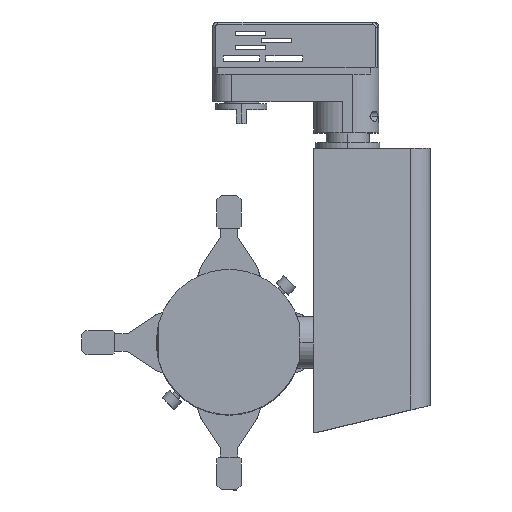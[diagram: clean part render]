
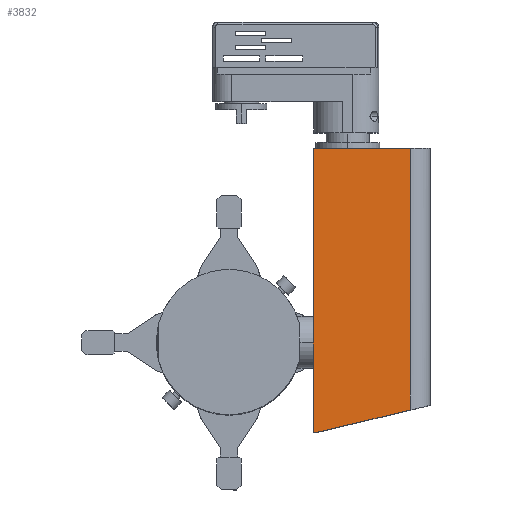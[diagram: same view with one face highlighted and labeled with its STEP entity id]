
A CAD part, top view. The second image highlights one B-rep face of the part: STEP entity #3832.
In plain terms, the highlighted planar face has unit normal (0.037, 0, 0.999).
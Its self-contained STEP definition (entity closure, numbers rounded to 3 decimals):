
#245 = CARTESIAN_POINT ( 'NONE',  ( 11.8, -52., 37.853 ) ) ;
#1342 = DIRECTION ( 'NONE',  ( -0.972, -0.232, 0.036 ) ) ;
#1391 = CARTESIAN_POINT ( 'NONE',  ( 15.954, -51.008, 37.7 ) ) ;
#2000 = CARTESIAN_POINT ( 'NONE',  ( 65.542, 112., 35.871 ) ) ;
#2102 = LINE ( 'NONE', #3359, #11455 ) ;
#2237 = LINE ( 'NONE', #8918, #6747 ) ;
#2376 = ORIENTED_EDGE ( 'NONE', *, *, #2924, .F. ) ;
#2924 = EDGE_CURVE ( 'NONE', #5583, #8647, #6660, .T. ) ;
#3250 = LINE ( 'NONE', #1391, #5326 ) ;
#3320 = ORIENTED_EDGE ( 'NONE', *, *, #10510, .T. ) ;
#3359 = CARTESIAN_POINT ( 'NONE',  ( 65.542, -101.8, 35.871 ) ) ;
#3379 = AXIS2_PLACEMENT_3D ( 'NONE', #5737, #6685, #7646 ) ;
#3414 = VECTOR ( 'NONE', #6370, 1000. ) ;
#3832 = ADVANCED_FACE ( 'NONE', ( #7785 ), #10245, .F. ) ;
#3950 = CARTESIAN_POINT ( 'NONE',  ( 9.3, -52., 37.945 ) ) ;
#4397 = CARTESIAN_POINT ( 'NONE',  ( 65.542, -39.161, 35.871 ) ) ;
#4509 = EDGE_LOOP ( 'NONE', ( #6865, #3320, #8018, #4620, #2376 ) ) ;
#4620 = ORIENTED_EDGE ( 'NONE', *, *, #8962, .T. ) ;
#5196 = VERTEX_POINT ( 'NONE', #4397 ) ;
#5287 = CARTESIAN_POINT ( 'NONE',  ( 77.008, -52., 35.448 ) ) ;
#5326 = VECTOR ( 'NONE', #1342, 1000. ) ;
#5583 = VERTEX_POINT ( 'NONE', #245 ) ;
#5737 = CARTESIAN_POINT ( 'NONE',  ( 9.3, -101.8, 37.945 ) ) ;
#5884 = VERTEX_POINT ( 'NONE', #2000 ) ;
#6370 = DIRECTION ( 'NONE',  ( 0., -1., 0. ) ) ;
#6660 = LINE ( 'NONE', #5287, #9500 ) ;
#6685 = DIRECTION ( 'NONE',  ( -0.037, 0., -0.999 ) ) ;
#6747 = VECTOR ( 'NONE', #10853, 1000. ) ;
#6865 = ORIENTED_EDGE ( 'NONE', *, *, #7142, .F. ) ;
#7142 = EDGE_CURVE ( 'NONE', #5196, #5583, #3250, .T. ) ;
#7489 = LINE ( 'NONE', #8157, #3414 ) ;
#7518 = EDGE_CURVE ( 'NONE', #5884, #8571, #2237, .T. ) ;
#7646 = DIRECTION ( 'NONE',  ( -0.999, 0., 0.037 ) ) ;
#7785 = FACE_OUTER_BOUND ( 'NONE', #4509, .T. ) ;
#8018 = ORIENTED_EDGE ( 'NONE', *, *, #7518, .T. ) ;
#8157 = CARTESIAN_POINT ( 'NONE',  ( 9.3, -52., 37.945 ) ) ;
#8360 = CARTESIAN_POINT ( 'NONE',  ( 9.3, 112., 37.945 ) ) ;
#8571 = VERTEX_POINT ( 'NONE', #8360 ) ;
#8647 = VERTEX_POINT ( 'NONE', #3950 ) ;
#8758 = DIRECTION ( 'NONE',  ( 0., 1., 0. ) ) ;
#8918 = CARTESIAN_POINT ( 'NONE',  ( 9.3, 112., 37.945 ) ) ;
#8962 = EDGE_CURVE ( 'NONE', #8571, #8647, #7489, .T. ) ;
#9500 = VECTOR ( 'NONE', #10625, 1000. ) ;
#10245 = PLANE ( 'NONE',  #3379 ) ;
#10510 = EDGE_CURVE ( 'NONE', #5196, #5884, #2102, .T. ) ;
#10625 = DIRECTION ( 'NONE',  ( -0.999, 0., 0.037 ) ) ;
#10853 = DIRECTION ( 'NONE',  ( -0.999, 0., 0.037 ) ) ;
#11455 = VECTOR ( 'NONE', #8758, 1000. ) ;
